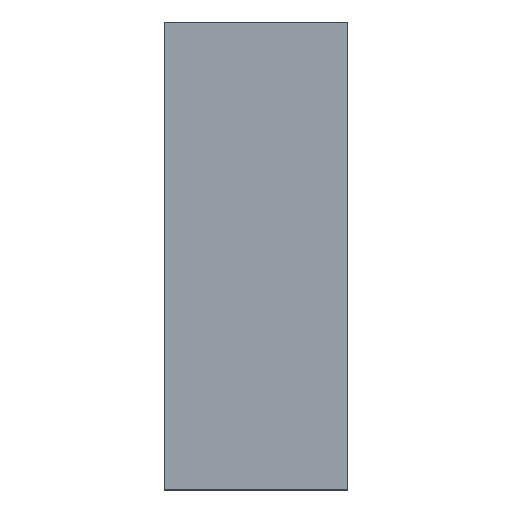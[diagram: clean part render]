
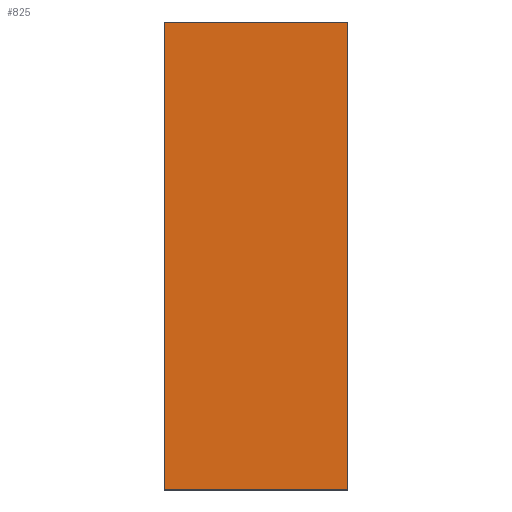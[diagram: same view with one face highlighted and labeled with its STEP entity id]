
A CAD part, top view. The second image highlights one B-rep face of the part: STEP entity #825.
In plain terms, the highlighted planar face has unit normal (0, 0, 1).
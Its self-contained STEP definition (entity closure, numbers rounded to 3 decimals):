
#27 = VERTEX_POINT ( 'NONE', #961 ) ;
#47 = ORIENTED_EDGE ( 'NONE', *, *, #814, .T. ) ;
#92 = EDGE_LOOP ( 'NONE', ( #1261, #47, #320, #1064 ) ) ;
#93 = CARTESIAN_POINT ( 'NONE',  ( -4.9, -3., 3. ) ) ;
#106 = VECTOR ( 'NONE', #740, 1000. ) ;
#116 = CARTESIAN_POINT ( 'NONE',  ( -4.9, 22., 3. ) ) ;
#208 = DIRECTION ( 'NONE',  ( 0., 0., -1. ) ) ;
#219 = CARTESIAN_POINT ( 'NONE',  ( 4.9, -3., 3. ) ) ;
#265 = LINE ( 'NONE', #1187, #106 ) ;
#319 = PLANE ( 'NONE',  #351 ) ;
#320 = ORIENTED_EDGE ( 'NONE', *, *, #1506, .T. ) ;
#328 = LINE ( 'NONE', #93, #1172 ) ;
#344 = VERTEX_POINT ( 'NONE', #1418 ) ;
#351 = AXIS2_PLACEMENT_3D ( 'NONE', #793, #208, #819 ) ;
#550 = DIRECTION ( 'NONE',  ( -1., 0., 0. ) ) ;
#569 = CARTESIAN_POINT ( 'NONE',  ( -4.9, -3., 3. ) ) ;
#662 = CARTESIAN_POINT ( 'NONE',  ( -4.9, 22., 3. ) ) ;
#740 = DIRECTION ( 'NONE',  ( 0., 1., 0. ) ) ;
#775 = LINE ( 'NONE', #662, #801 ) ;
#793 = CARTESIAN_POINT ( 'NONE',  ( 0., 0., 3. ) ) ;
#798 = EDGE_CURVE ( 'NONE', #1216, #344, #328, .T. ) ;
#801 = VECTOR ( 'NONE', #550, 1000. ) ;
#808 = VERTEX_POINT ( 'NONE', #219 ) ;
#814 = EDGE_CURVE ( 'NONE', #344, #808, #1382, .T. ) ;
#819 = DIRECTION ( 'NONE',  ( -1., 0., 0. ) ) ;
#825 = ADVANCED_FACE ( 'NONE', ( #1524 ), #319, .F. ) ;
#961 = CARTESIAN_POINT ( 'NONE',  ( 4.9, 22., 3. ) ) ;
#1053 = EDGE_CURVE ( 'NONE', #27, #1216, #775, .T. ) ;
#1064 = ORIENTED_EDGE ( 'NONE', *, *, #1053, .T. ) ;
#1093 = VECTOR ( 'NONE', #1173, 1000. ) ;
#1172 = VECTOR ( 'NONE', #1518, 1000. ) ;
#1173 = DIRECTION ( 'NONE',  ( 1., 0., 0. ) ) ;
#1187 = CARTESIAN_POINT ( 'NONE',  ( 4.9, -3., 3. ) ) ;
#1216 = VERTEX_POINT ( 'NONE', #116 ) ;
#1261 = ORIENTED_EDGE ( 'NONE', *, *, #798, .T. ) ;
#1382 = LINE ( 'NONE', #569, #1093 ) ;
#1418 = CARTESIAN_POINT ( 'NONE',  ( -4.9, -3., 3. ) ) ;
#1506 = EDGE_CURVE ( 'NONE', #808, #27, #265, .T. ) ;
#1518 = DIRECTION ( 'NONE',  ( 0., -1., 0. ) ) ;
#1524 = FACE_OUTER_BOUND ( 'NONE', #92, .T. ) ;
